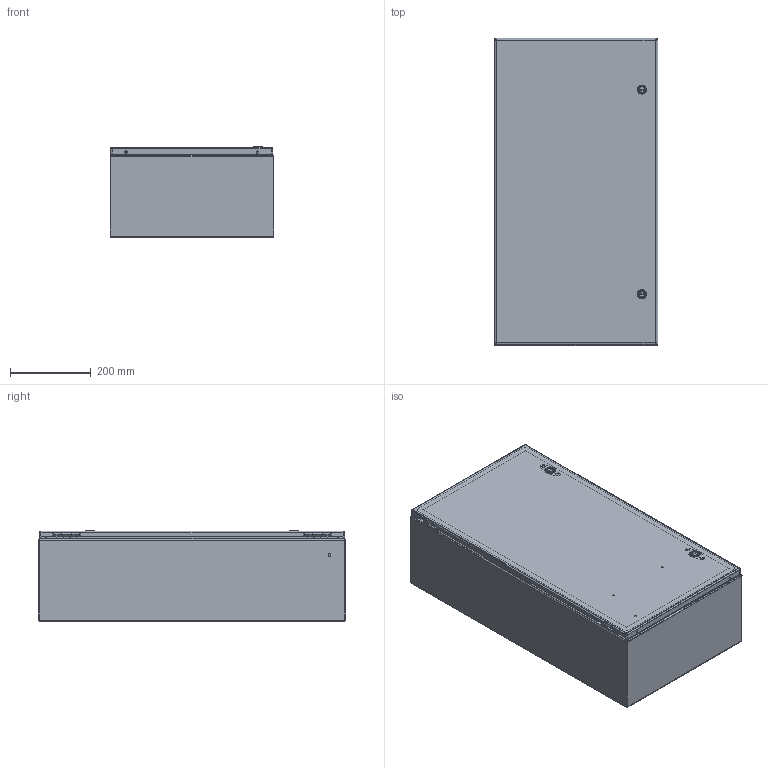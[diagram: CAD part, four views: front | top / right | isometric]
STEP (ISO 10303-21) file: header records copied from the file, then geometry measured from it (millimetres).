
FILE_DESCRIPTION (( 'STEP AP203' ), '1' );
FILE_NAME ('29406.step', '2015-03-30T06:15:06', ( '' ), ( '' ), 'SwSTEP 2.0', 'SolidWorks 2010', '' );
FILE_SCHEMA (( 'CONFIG_CONTROL_DESIGN' ));
Length unit declared in the file: inch
Products named in the file (24): 29406; 89116863; 89116862_default; 23271001_After Weld; 89116866_assy; 89116865_weldment; 89116864; 99401225; 87931362_87931362; 64101001; 64201001; 87541994_Installed Height; 87541995; 64202001; 64210001; 64203001; 89116867; 87543027; 89076399; 89076193; 89056623; 87929507; 87929767; 87929769_Installed on Pin
Assembly tree (32 placements, depth 4):
  29406
    89116863
      23271001_After Weld  x4
      89116862_default
      99401225
    87543027  x2
    89076399  x2
      89076193
      89056623
    87929507  x2
      87929769_Installed on Pin
      87929767
    89116866_assy
      64101001  x2
        64201001
        64203001
        87541994_Installed Height
        87541995
        64202001
        64210001
      89116867
      89116865_weldment
        87931362_87931362  x2
        89116864
        99401225
Bounding box: 406.4 x 762 x 223.9 mm (x, y, z)
Volume: 1996174.3 mm3; surface area: 2509638.8 mm2
Topology: 35 solids, 35 shells, 1541 faces, 3794 edges, 2344 vertices
Faces by surface type: plane 631, cylinder 510, bspline 224, torus 104, cone 64, sphere 8
Entity records: 34309 total; most frequent: CARTESIAN_POINT 9989, ORIENTED_EDGE 4564, DIRECTION 4346, EDGE_CURVE 2282, AXIS2_PLACEMENT_3D 1551, VERTEX_POINT 1404, VECTOR 1244, LINE 1244
